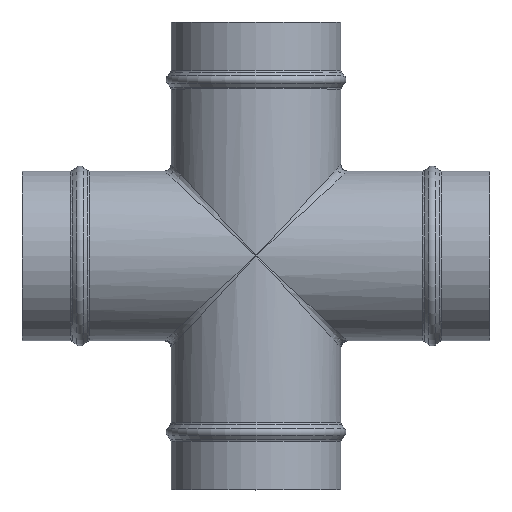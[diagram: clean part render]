
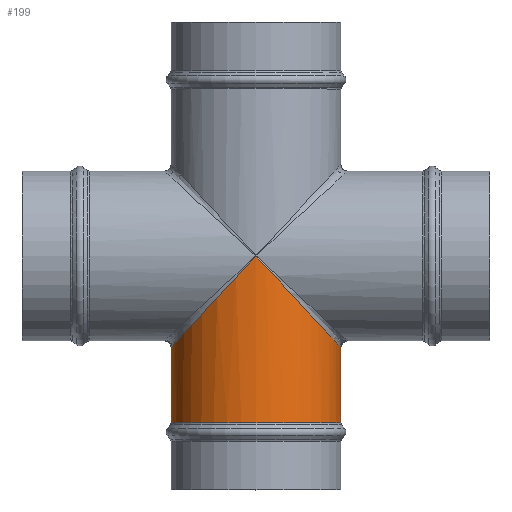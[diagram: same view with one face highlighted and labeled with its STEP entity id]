
A CAD part, top view. The second image highlights one B-rep face of the part: STEP entity #199.
In plain terms, the highlighted cylindrical face has radius 50.8 mm (diameter 101.6 mm), a full revolution.
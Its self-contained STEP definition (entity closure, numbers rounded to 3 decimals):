
#199=ADVANCED_FACE('',(#335,#336),#230,.T.);
#230=CYLINDRICAL_SURFACE('',#896,50.8);
#243=ELLIPSE('',#894,74.724,50.8);
#244=ELLIPSE('',#895,74.724,50.8);
#335=FACE_BOUND('',#455,.T.);
#336=FACE_BOUND('',#456,.T.);
#455=EDGE_LOOP('',(#584));
#456=EDGE_LOOP('',(#585,#586));
#584=ORIENTED_EDGE('',*,*,#736,.F.);
#585=ORIENTED_EDGE('',*,*,#737,.T.);
#586=ORIENTED_EDGE('',*,*,#738,.T.);
#631=VERTEX_POINT('',#1177);
#632=VERTEX_POINT('',#1178);
#672=VERTEX_POINT('',#1437);
#736=EDGE_CURVE('',#672,#672,#792,.T.);
#737=EDGE_CURVE('',#631,#632,#243,.T.);
#738=EDGE_CURVE('',#632,#631,#244,.T.);
#792=CIRCLE('',#892,50.8);
#892=AXIS2_PLACEMENT_3D('',#1436,#1102,#1103);
#894=AXIS2_PLACEMENT_3D('',#1439,#1106,#1107);
#895=AXIS2_PLACEMENT_3D('',#1440,#1108,#1109);
#896=AXIS2_PLACEMENT_3D('',#1441,#1110,#1111);
#1102=DIRECTION('',(0.,-1.,0.));
#1103=DIRECTION('',(1.,0.,0.));
#1106=DIRECTION('',(-0.733,-0.68,0.));
#1107=DIRECTION('',(-0.68,0.733,0.));
#1108=DIRECTION('',(0.733,-0.68,0.));
#1109=DIRECTION('',(-0.68,-0.733,0.));
#1110=DIRECTION('',(0.,-1.,0.));
#1111=DIRECTION('',(1.,0.,0.));
#1177=CARTESIAN_POINT('',(0.,0.,-50.8));
#1178=CARTESIAN_POINT('',(0.,0.,50.8));
#1436=CARTESIAN_POINT('',(0.,-99.929,0.));
#1437=CARTESIAN_POINT('',(50.8,-99.929,0.));
#1439=CARTESIAN_POINT('',(0.,0.,0.));
#1440=CARTESIAN_POINT('',(0.,0.,0.));
#1441=CARTESIAN_POINT('',(0.,140.,0.));
